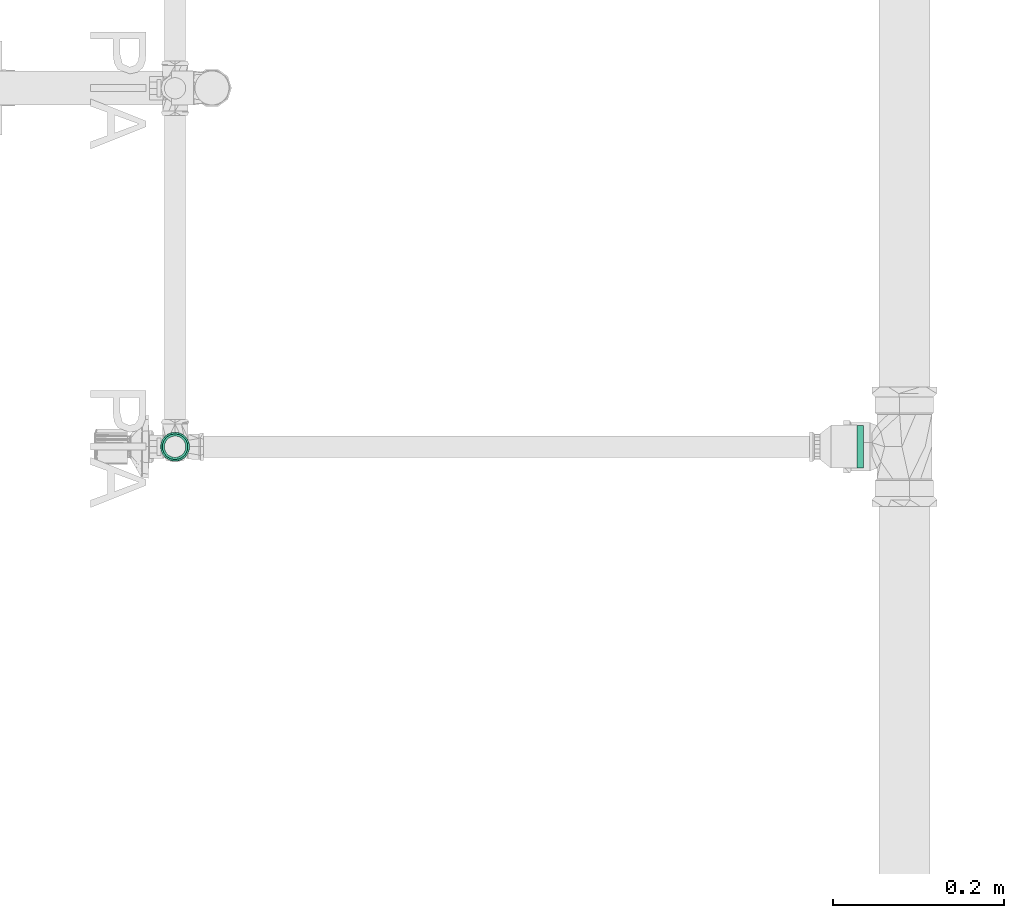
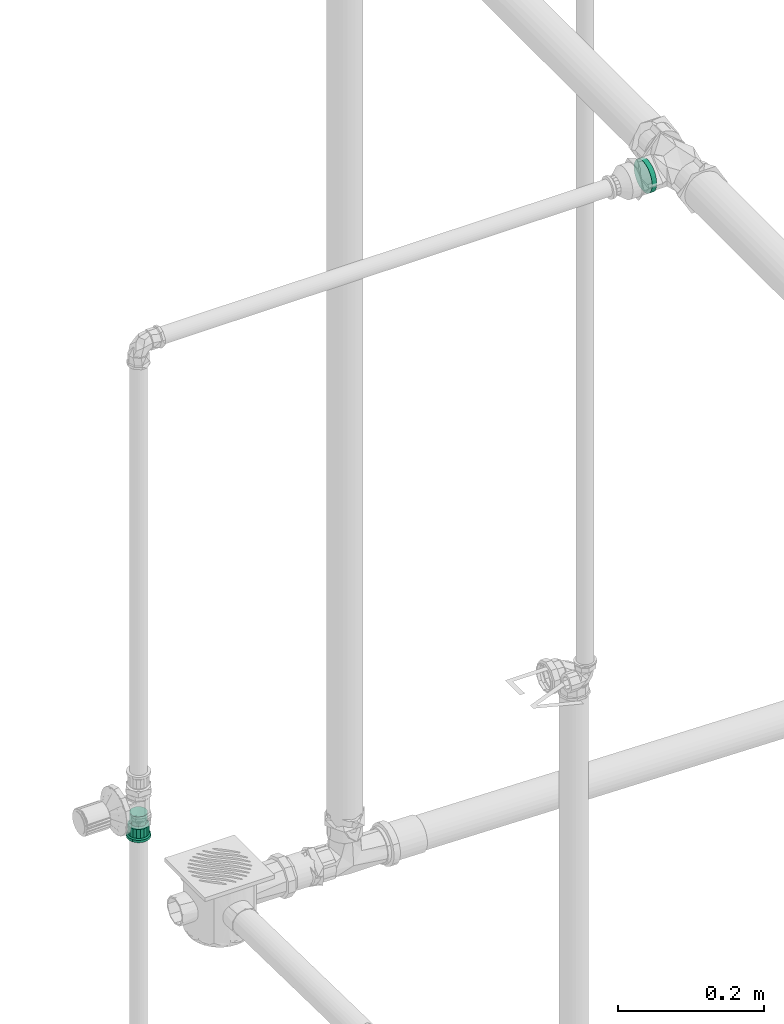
# One storey, part 400 of 589: 1 flow fitting, 1 flow segment.
"""IFC2X3 building model written with IfcOpenShell, lengths in millimetres."""

import ifcopenshell
import ifcopenshell.guid

model = None  # the IFC model being written
_history = None  # IfcOwnerHistory: only IFC2X3 demands one
_inside = {}  # id of a spatial element -> (the spatial element, [elements in it])
_under = {}  # id of a project, library or spatial element -> (it, [spatial elements below it])
_declared = {}  # id of a project -> (the project, [libraries it declares])
_typed = {}  # id of a type object -> (the type object, [elements of that type])
_made_of = {}  # id of a material, layer set ... -> (it, [elements and type objects made of it])


def new_model(schema):
    """Start an empty IFC model of exactly this schema.

    Asked for "IFC4X3", IfcOpenShell would pick the latest addendum, in which some entities
    have other attributes; the version numbers below select the first issue.
    IFC2X3 requires an IfcOwnerHistory on every rooted entity: one is made here for all.
    """
    global model, _history
    if schema == "IFC4X3":
        model = ifcopenshell.file(schema_version=(4, 3, 0, 0))
    else:
        model = ifcopenshell.file(schema=schema)
    _inside.clear()
    _under.clear()
    _declared.clear()
    _typed.clear()
    _made_of.clear()
    _history = None
    if model.schema == "IFC2X3":
        org = make("IfcOrganization", Name="unknown")
        user = make(
            "IfcPersonAndOrganization",
            ThePerson=make("IfcPerson", FamilyName="unknown"),
            TheOrganization=org,
        )
        app = make(
            "IfcApplication",
            ApplicationDeveloper=org,
            Version="unknown",
            ApplicationFullName="unknown",
            ApplicationIdentifier="unknown",
        )
        _history = make(
            "IfcOwnerHistory",
            OwningUser=user,
            OwningApplication=app,
            ChangeAction="ADDED",
            CreationDate=0,
        )
    return model


def make(cls, **values):
    """One entity of the class cls with the attributes given. An attribute that is None is left unset."""
    return model.create_entity(
        cls, **{name: value for name, value in values.items() if value is not None}
    )


def entity(cls, *values):
    """Any entity or typed value of the class cls, its attributes in the order of the schema. None: left unset."""
    e = model.create_entity(cls)
    for i, value in enumerate(values):
        if value is not None:
            e[i] = value
    return e


def rooted(cls, **values):
    """An entity with a GlobalId (a new one), such as an element, a storey or a relation."""
    return make(cls, GlobalId=ifcopenshell.guid.new(), OwnerHistory=_history, **values)


def si_unit(unit_type, name, prefix=None):
    """IfcSIUnit, for example si_unit("LENGTHUNIT", "METRE", prefix="MILLI")."""
    return make("IfcSIUnit", UnitType=unit_type, Prefix=prefix, Name=name)


def converted_unit(unit_type, name, factor, base, dimensions=None, offset=None):
    """IfcConversionBasedUnit, such as the inch: factor (a typed value) times the base unit."""
    return make(
        "IfcConversionBasedUnit"
        if offset is None
        else "IfcConversionBasedUnitWithOffset",
        ConversionOffset=offset,
        Dimensions=None
        if dimensions is None
        else entity("IfcDimensionalExponents", *dimensions),
        UnitType=unit_type,
        Name=name,
        ConversionFactor=make(
            "IfcMeasureWithUnit", ValueComponent=factor, UnitComponent=base
        ),
    )


def derived_unit(unit_type, elements):
    """IfcDerivedUnit: a product of units, each with its exponent."""
    return make(
        "IfcDerivedUnit",
        Elements=[
            make("IfcDerivedUnitElement", Unit=unit, Exponent=power)
            for unit, power in elements
        ],
        UnitType=unit_type,
    )


def assignment(units):
    """IfcUnitAssignment: the units of a project."""
    return None if units is None else make("IfcUnitAssignment", Units=units)


def point(xyz):
    """IfcCartesianPoint."""
    return None if xyz is None else make("IfcCartesianPoint", Coordinates=xyz)


def direction(xyz):
    """IfcDirection."""
    return None if xyz is None else make("IfcDirection", DirectionRatios=xyz)


def frame(location, z_axis=None, x_axis=None):
    """IfcAxis2Placement3D, a coordinate frame: its origin and axes. An axis left out is left unset."""
    return make(
        "IfcAxis2Placement3D",
        Location=point(location),
        Axis=direction(z_axis),
        RefDirection=direction(x_axis),
    )


def frame_2d(location, x_axis=None):
    """IfcAxis2Placement2D, a coordinate frame in the plane: its origin and x axis."""
    return make(
        "IfcAxis2Placement2D", Location=point(location), RefDirection=direction(x_axis)
    )


def origin():
    """The frame at (0, 0, 0) with its axes left unset."""
    return frame((0.0, 0.0, 0.0))


def place(relative_to, where):
    """IfcLocalPlacement: puts the frame where relative to a parent placement (None: the world)."""
    return make(
        "IfcLocalPlacement", PlacementRelTo=relative_to, RelativePlacement=where
    )


def context(
    kind, dimensions, precision=None, world=None, true_north=None, identifier=None
):
    """IfcGeometricRepresentationContext, for example the 3D "Model" context."""
    return make(
        "IfcGeometricRepresentationContext",
        ContextIdentifier=identifier,
        ContextType=kind,
        CoordinateSpaceDimension=dimensions,
        Precision=precision,
        WorldCoordinateSystem=world,
        TrueNorth=true_north,
    )


def subcontext(parent, identifier, kind, view, scale=None):
    """IfcGeometricRepresentationSubContext, for example "Body" below "Model"."""
    return make(
        "IfcGeometricRepresentationSubContext",
        ContextIdentifier=identifier,
        ContextType=kind,
        ParentContext=parent,
        TargetScale=scale,
        TargetView=view,
    )


def project(units=None, contexts=None):
    """IfcProject with its units and contexts."""
    return rooted(
        "IfcProject",
        Name="project",
        RepresentationContexts=contexts,
        UnitsInContext=assignment(units),
    )


def spatial(cls, under=None, at=None, **own):
    """A site, building, storey or space (cls), placed at a placement, below another one or the project."""
    s = rooted(cls, ObjectPlacement=at, **own)
    if under is not None:
        _under.setdefault(under.id(), (under, []))[1].append(s)
    return s


def profile(cls, at=None, kind="AREA", **sizes):
    """A parametric profile (cls). Its sizes go by their IFC names, for example OverallWidth=200.0."""
    return make(cls, ProfileType=kind, Position=at, **sizes)


def circle(**sizes):
    """IfcCircleProfileDef."""
    return profile("IfcCircleProfileDef", **sizes)


def extrude(swept, where, along, depth):
    """IfcExtrudedAreaSolid: the profile swept, set in the frame where, extruded along a direction by depth."""
    return make(
        "IfcExtrudedAreaSolid",
        SweptArea=swept,
        Position=where,
        ExtrudedDirection=direction(along),
        Depth=depth,
    )


def faces_of(points, faces, orient=None, outer=None):
    """IfcFace entities. A face is a list of loops; a loop is a list of indices into points, from 0.

    orient and outer hold one flag for each loop. By default every Orientation is true, the
    first loop of a face is its IfcFaceOuterBound and the others are IfcFaceBound.
    """
    made = []
    for i, loops in enumerate(faces):
        bounds = []
        for j, loop in enumerate(loops):
            is_outer = j == 0 if outer is None else outer[i][j]
            bounds.append(
                make(
                    "IfcFaceOuterBound" if is_outer else "IfcFaceBound",
                    Bound=make("IfcPolyLoop", Polygon=[points[k] for k in loop]),
                    Orientation=True if orient is None else orient[i][j],
                )
            )
        made.append(make("IfcFace", Bounds=bounds))
    return made


def faceted_brep(points, faces, orient=None, outer=None, voids=None):
    """IfcFacetedBrep: a solid bounded by flat faces; with voids (closed shells), ...WithVoids."""
    shared = [point(p) for p in points]
    hull = make("IfcClosedShell", CfsFaces=faces_of(shared, faces, orient, outer))
    if voids is None:
        return make("IfcFacetedBrep", Outer=hull)
    return make(
        "IfcFacetedBrepWithVoids",
        Outer=hull,
        Voids=[
            make(cls, CfsFaces=faces_of(shared, fs, o, b)) for cls, fs, o, b in voids
        ],
    )


def shape(context_of_items, identifier, shape_type, items):
    """IfcShapeRepresentation: the items that make up one representation, for example the "Body"."""
    return make(
        "IfcShapeRepresentation",
        ContextOfItems=context_of_items,
        RepresentationIdentifier=identifier,
        RepresentationType=shape_type,
        Items=items,
    )


def source(mapping_origin, context_of_items, identifier, shape_type, items):
    """IfcRepresentationMap: a shape defined once, which mapped items show again and again."""
    return make(
        "IfcRepresentationMap",
        MappingOrigin=mapping_origin,
        MappedRepresentation=shape(context_of_items, identifier, shape_type, items),
    )


def transform(
    local_origin,
    x_axis=None,
    y_axis=None,
    z_axis=None,
    scale=None,
    scale2=None,
    scale3=None,
    uniform=True,
):
    """IfcCartesianTransformationOperator3D, or its non-uniform kind. x_axis, y_axis, z_axis: its Axis1, 2, 3."""
    if uniform:
        return make(
            "IfcCartesianTransformationOperator3D",
            Axis1=direction(x_axis),
            Axis2=direction(y_axis),
            LocalOrigin=point(local_origin),
            Scale=scale,
            Axis3=direction(z_axis),
        )
    return make(
        "IfcCartesianTransformationOperator3DnonUniform",
        Axis1=direction(x_axis),
        Axis2=direction(y_axis),
        LocalOrigin=point(local_origin),
        Scale=scale,
        Axis3=direction(z_axis),
        Scale2=scale2,
        Scale3=scale3,
    )


def mapped(mapping_source, mapping_target):
    """IfcMappedItem: shows the shape of a source again, moved by a transform."""
    return make(
        "IfcMappedItem", MappingSource=mapping_source, MappingTarget=mapping_target
    )


def material(Name=None, Category=None):
    """IfcMaterial."""
    return make("IfcMaterial", Name=Name, Category=Category)


def made_of(thing, what):
    """Note that an element or type object is made of a material, layer set ...; save() writes the relation."""
    if what is not None:
        _made_of.setdefault(what.id(), (what, []))[1].append(thing)
    return thing


def type_object(cls, material=None, **own):
    """A type object (cls), such as IfcWallType, which elements share."""
    return made_of(rooted(cls, **own), material)


def type_shapes(of_type, sources):
    """Give a type object the sources (RepresentationMaps) that its elements show as mapped items."""
    of_type.RepresentationMaps = sources


def element(
    cls,
    number,
    at=None,
    inside=None,
    cuts=None,
    type_object=None,
    material=None,
    context=None,
    identifier="Body",
    shape_type=None,
    held_by="IfcProductDefinitionShape",
    body=None,
    shapes=None,
    **own,
):
    """One element of the class cls, such as IfcWall. Its Tag is "e" and its number.

    at: its placement. inside: the storey or other place that contains it. cuts: it is an
    opening in that element (IfcRelVoidsElement). A single representation is given by context,
    identifier, shape_type and body (its items); several are given by shapes. held_by: the class
    of the entity that holds the representations. save() writes the other relations.
    """
    e = rooted(cls, Tag="e%d" % number, ObjectPlacement=at, **own)
    if body is not None:
        shapes = [shape(context, identifier, shape_type, body)]
    if shapes is not None:
        e.Representation = make(held_by, Representations=shapes)
    if inside is not None:
        _inside.setdefault(inside.id(), (inside, []))[1].append(e)
    if cuts is not None:
        rooted(
            "IfcRelVoidsElement", RelatingBuildingElement=cuts, RelatedOpeningElement=e
        )
    if type_object is not None:
        _typed.setdefault(type_object.id(), (type_object, []))[1].append(e)
    return made_of(e, material)


def aggregate(whole, parts):
    """IfcRelAggregates: a whole, such as a stair, and the parts it consists of."""
    return rooted("IfcRelAggregates", RelatingObject=whole, RelatedObjects=parts)


def save(model, path):
    """Write the relations noted so far, then the file.

    IfcRelAggregates (storeys below a building ...), IfcRelContainedInSpatialStructure (elements
    in a storey), IfcRelDefinesByType, IfcRelAssociatesMaterial and IfcRelDeclares: one each for
    every whole, place, type object, material and project.
    """
    for whole, parts in _under.values():
        aggregate(whole, parts)
    for where, things in _inside.values():
        rooted(
            "IfcRelContainedInSpatialStructure",
            RelatedElements=things,
            RelatingStructure=where,
        )
    for kind, things in _typed.values():
        rooted("IfcRelDefinesByType", RelatedObjects=things, RelatingType=kind)
    for what, things in _made_of.values():
        rooted("IfcRelAssociatesMaterial", RelatedObjects=things, RelatingMaterial=what)
    for by, libraries in _declared.values():
        rooted("IfcRelDeclares", RelatingContext=by, RelatedDefinitions=libraries)
    model.write(path)


model = new_model("IFC2X3")

# Units and contexts
model_context = context("Model", 3, precision=0.01, world=origin(), true_north=direction((6.123031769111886e-17, 1.0)))
body_context = subcontext(model_context, "Body", "Model", "MODEL_VIEW")
ifc_project = project(units=[si_unit("LENGTHUNIT", "METRE", prefix="MILLI"), si_unit("AREAUNIT", "SQUARE_METRE"), si_unit("VOLUMEUNIT", "CUBIC_METRE"), converted_unit("PLANEANGLEUNIT", "DEGREE", entity("IfcRatioMeasure", 0.017453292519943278), si_unit("PLANEANGLEUNIT", "RADIAN"), dimensions=[0, 0, 0, 0, 0, 0, 0]), si_unit("MASSUNIT", "GRAM", prefix="KILO"), derived_unit("MASSDENSITYUNIT", [(si_unit("MASSUNIT", "GRAM", prefix="KILO"), 1), (si_unit("LENGTHUNIT", "METRE"), -3)]), derived_unit("IONCONCENTRATIONUNIT", [(si_unit("MASSUNIT", "GRAM", prefix="KILO"), 1), (si_unit("LENGTHUNIT", "METRE"), -3)]), derived_unit("MOMENTOFINERTIAUNIT", [(si_unit("LENGTHUNIT", "METRE"), 4)]), si_unit("TIMEUNIT", "SECOND"), si_unit("FREQUENCYUNIT", "HERTZ"), si_unit("THERMODYNAMICTEMPERATUREUNIT", "DEGREE_CELSIUS"), derived_unit("THERMALTRANSMITTANCEUNIT", [(si_unit("MASSUNIT", "GRAM", prefix="KILO"), 1), (si_unit("THERMODYNAMICTEMPERATUREUNIT", "KELVIN"), -1), (si_unit("TIMEUNIT", "SECOND"), -3)]), derived_unit("THERMALCONDUCTANCEUNIT", [(si_unit("MASSUNIT", "GRAM", prefix="KILO"), 1), (si_unit("THERMODYNAMICTEMPERATUREUNIT", "KELVIN"), -1), (si_unit("TIMEUNIT", "SECOND"), -3), (si_unit("LENGTHUNIT", "METRE"), 1)]), derived_unit("VOLUMETRICFLOWRATEUNIT", [(si_unit("LENGTHUNIT", "METRE"), 3), (si_unit("TIMEUNIT", "SECOND"), -1)]), derived_unit("MASSFLOWRATEUNIT", [(si_unit("MASSUNIT", "GRAM", prefix="KILO"), 1), (si_unit("TIMEUNIT", "SECOND"), -1)]), derived_unit("ROTATIONALFREQUENCYUNIT", [(si_unit("TIMEUNIT", "SECOND"), -1)]), si_unit("ELECTRICCURRENTUNIT", "AMPERE"), si_unit("ELECTRICVOLTAGEUNIT", "VOLT"), si_unit("POWERUNIT", "WATT"), si_unit("FORCEUNIT", "NEWTON", prefix="KILO"), si_unit("ILLUMINANCEUNIT", "LUX"), si_unit("LUMINOUSFLUXUNIT", "LUMEN"), si_unit("LUMINOUSINTENSITYUNIT", "CANDELA"), derived_unit("USERDEFINED", [(si_unit("MASSUNIT", "GRAM", prefix="KILO"), -1), (si_unit("LENGTHUNIT", "METRE"), -2), (si_unit("TIMEUNIT", "SECOND"), 3), (si_unit("LUMINOUSFLUXUNIT", "LUMEN"), 1)]), derived_unit("USERDEFINED", [(si_unit("MASSUNIT", "GRAM", prefix="KILO"), 1), (si_unit("TIMEUNIT", "SECOND"), -3), (si_unit("LENGTHUNIT", "METRE"), 3), (si_unit("ELECTRICCURRENTUNIT", "AMPERE"), -2)]), derived_unit("SOUNDPOWERUNIT", [(si_unit("MASSUNIT", "GRAM", prefix="KILO"), 1), (si_unit("TIMEUNIT", "SECOND"), -3), (si_unit("LENGTHUNIT", "METRE"), 2)]), derived_unit("SOUNDPRESSUREUNIT", [(si_unit("MASSUNIT", "GRAM", prefix="KILO"), 1), (si_unit("LENGTHUNIT", "METRE"), -1), (si_unit("TIMEUNIT", "SECOND"), -2)]), derived_unit("LINEARVELOCITYUNIT", [(si_unit("LENGTHUNIT", "METRE"), 1), (si_unit("TIMEUNIT", "SECOND"), -1)]), si_unit("PRESSUREUNIT", "PASCAL"), derived_unit("USERDEFINED", [(si_unit("MASSUNIT", "GRAM", prefix="KILO"), 1), (si_unit("LENGTHUNIT", "METRE"), -2), (si_unit("TIMEUNIT", "SECOND"), -2)]), derived_unit("LINEARFORCEUNIT", [(si_unit("MASSUNIT", "GRAM", prefix="KILO"), 1), (si_unit("TIMEUNIT", "SECOND"), -2)]), derived_unit("PLANARFORCEUNIT", [(si_unit("MASSUNIT", "GRAM", prefix="KILO"), 1), (si_unit("LENGTHUNIT", "METRE"), -1), (si_unit("TIMEUNIT", "SECOND"), -2)]), derived_unit("SPECIFICHEATCAPACITYUNIT", [(si_unit("THERMODYNAMICTEMPERATUREUNIT", "KELVIN"), -1), (si_unit("LENGTHUNIT", "METRE"), 2), (si_unit("TIMEUNIT", "SECOND"), -2)]), derived_unit("HEATINGVALUEUNIT", [(si_unit("LENGTHUNIT", "METRE"), 2), (si_unit("TIMEUNIT", "SECOND"), -2)]), derived_unit("VAPORPERMEABILITYUNIT", [(si_unit("LENGTHUNIT", "METRE"), -1), (si_unit("TIMEUNIT", "SECOND"), 1)]), derived_unit("DYNAMICVISCOSITYUNIT", [(si_unit("MASSUNIT", "GRAM", prefix="KILO"), 1), (si_unit("TIMEUNIT", "SECOND"), -1), (si_unit("LENGTHUNIT", "METRE"), -1)]), derived_unit("THERMALEXPANSIONCOEFFICIENTUNIT", [(si_unit("THERMODYNAMICTEMPERATUREUNIT", "KELVIN"), -1)]), derived_unit("MODULUSOFELASTICITYUNIT", [(si_unit("MASSUNIT", "GRAM", prefix="KILO"), 1), (si_unit("LENGTHUNIT", "METRE"), -1), (si_unit("TIMEUNIT", "SECOND"), -2)]), derived_unit("ISOTHERMALMOISTURECAPACITYUNIT", [(si_unit("LENGTHUNIT", "METRE"), 3), (si_unit("MASSUNIT", "GRAM", prefix="KILO"), -1)]), derived_unit("MOISTUREDIFFUSIVITYUNIT", [(si_unit("TIMEUNIT", "SECOND"), -1), (si_unit("LENGTHUNIT", "METRE"), 2)])], contexts=[model_context])

# Site, building, storey
site_placement = place(None, origin())
site = spatial("IfcSite", under=ifc_project, at=site_placement, Name="Default", CompositionType="ELEMENT")
building_placement = place(site_placement, origin())
building = spatial("IfcBuilding", under=site, at=building_placement, CompositionType="ELEMENT")
storey_placement = place(building_placement, frame((0.0, 0.0, 100.0)))
storey = spatial("IfcBuildingStorey", under=building, at=storey_placement, Name="TÉRREO", CompositionType="ELEMENT", Elevation=100.0)

# Flow segment
pipe_segment_type = type_object("IfcPipeSegmentType", Name="Tipos de tubos:PVC Marrom Soldável", PredefinedType="NOTDEFINED")
flow_segment_placement = place(storey_placement, origin())
element("IfcFlowSegment", 1, at=flow_segment_placement, inside=storey, type_object=pipe_segment_type, Name="Tipos de tubos:PVC Marrom Soldável", ObjectType="Tipos de tubos:PVC Marrom Soldável", context=body_context, shape_type="SweptSolid", body=[
    extrude(circle(Radius=25.0, at=frame_2d((-1.353583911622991e-13, 5.414335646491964e-13), x_axis=(1.0, 0.0))), frame((3990.21586824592, 277.31812904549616, 2970.0), z_axis=(1.0, 0.0, 0.0), x_axis=(0.0, 1.0, 0.0)), (0.0, 0.0, 1.0), 7.500000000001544),
])

# Flow fitting
ifc_material = material(Name="PVC Marrom")
pipe_fitting_type = type_object("IfcPipeFittingType", Name="PVC Marrom Soldável_Adaptador Curto com Bolsa e Rosca Aninhado_Rodrigo MEP:Adaptador", PredefinedType="NOTDEFINED", material=ifc_material)
shared_shape = source(origin(), body_context, "Body", "Brep", [
    faceted_brep([(0.0, -8.500000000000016, -14.72243186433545), (0.0, -12.020815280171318, -12.0208152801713), (0.0, -6.2499999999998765, -10.825317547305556), (0.0, -3.2352380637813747, -12.07407282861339), (0.0, -4.399923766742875, -16.420739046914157), (0.0, -8.838834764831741, -8.83883476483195), (0.0, -14.722431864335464, -8.499999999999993), (0.0, -10.825317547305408, -6.250000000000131), (0.0, -12.074072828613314, -3.2352380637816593), (0.0, -16.42073904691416, -4.399923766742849), (0.0, -12.5, 0.0), (0.0, -17.0, 0.0), (0.0, -12.074072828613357, 3.2352380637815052), (0.0, -16.420739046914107, 4.399923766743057), (0.0, -10.825317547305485, 6.2499999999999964), (0.0, -14.722431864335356, 8.500000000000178), (0.0, -8.83883476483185, 8.838834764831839), (0.0, -12.020815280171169, 12.020815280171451), (0.0, -6.250000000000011, 10.82531754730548), (0.0, -8.499999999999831, 14.722431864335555), (0.0, -3.2352380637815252, 12.07407282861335), (0.0, -4.39992376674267, 16.42073904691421), (0.0, 0.0, 12.5), (0.0, 0.0, 17.0), (0.0, 3.2352380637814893, 12.07407282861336), (0.0, 4.399923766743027, 16.420739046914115), (0.0, 6.24999999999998, 10.825317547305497), (0.0, 8.500000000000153, 14.722431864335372), (0.0, 8.838834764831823, 8.838834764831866), (0.0, 12.020815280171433, 12.020815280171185), (0.0, 10.82531754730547, 6.250000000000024), (0.0, 14.722431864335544, 8.499999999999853), (0.0, 16.42073904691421, 4.399923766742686), (0.0, 12.074072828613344, 3.2352380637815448), (0.0, 17.0, 0.0), (0.0, 12.5, 0.0), (0.0, 16.42073904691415, -4.399923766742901), (0.0, 12.074072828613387, -3.235238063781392), (0.0, 14.722431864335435, -8.500000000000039), (0.0, 10.82531754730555, -6.249999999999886), (0.0, 12.02081528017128, -12.020815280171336), (0.0, 8.838834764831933, -8.838834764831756), (0.0, 8.499999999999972, -14.722431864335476), (0.0, 6.250000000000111, -10.825317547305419), (0.0, 4.399923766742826, -16.42073904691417), (0.0, 3.235238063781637, -12.074072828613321), (0.0, 0.0, -17.0), (0.0, 0.0, -12.5), (4.0, 15.974612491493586, 5.8147876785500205), (4.0, 16.487306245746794, 2.9073938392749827), (4.0, 10.760457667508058, 12.825628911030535), (4.0, 13.022146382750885, 10.928115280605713), (4.0, 14.498379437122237, 8.371451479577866), (4.0, 5.724460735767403, 15.732601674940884), (4.0, 2.9501525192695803, 16.742060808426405), (4.0, 16.599682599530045, 2.2701277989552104), (4.0, 17.0, 0.0), (4.0, 8.498768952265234, 14.723142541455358), (4.0, -8.502461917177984, 14.721010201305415), (4.0, -5.728407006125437, 15.731165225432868), (4.0, -2.954352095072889, 16.74132024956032), (4.0, -13.02488724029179, 10.924848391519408), (4.0, -10.763674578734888, 12.82292929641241), (4.0, -17.0, 0.0), (4.0, -15.976070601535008, 5.8107803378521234), (4.0, -14.5004789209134, 8.367814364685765), (4.0, -0.002099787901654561, 16.741690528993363), (4.0, -15.97607060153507, -5.810780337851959), (4.0, -10.763674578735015, -12.822929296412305), (4.0, -13.024887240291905, -10.92484839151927), (4.0, -14.500478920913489, -8.367814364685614), (4.0, -5.728407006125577, -15.731165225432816), (4.0, -2.9543520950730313, -16.741320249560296), (4.0, -8.502461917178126, -14.721010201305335), (4.0, 16.487306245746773, -2.907393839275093), (4.0, 8.498768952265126, -14.72314254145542), (4.0, 5.724460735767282, -15.732601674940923), (4.0, 2.950152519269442, -16.74206080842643), (4.0, 13.022146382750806, -10.928115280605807), (4.0, 10.760457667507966, -12.825628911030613), (4.0, 15.974612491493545, -5.814787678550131), (4.0, 14.498379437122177, -8.371451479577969), (4.0, -0.002099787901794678, -16.741690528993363), (4.0, 16.599682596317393, -2.270127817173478), (20.85, 14.535973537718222, 2.9149513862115), (20.85, 14.596115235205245, 2.5738986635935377), (20.850000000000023, 15.05, 0.0), (5.900000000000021, 15.05, 0.0), (5.900000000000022, 14.59611523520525, 2.5738986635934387), (5.900000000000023, 14.142230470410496, 5.147797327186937), (20.84999999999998, 14.142230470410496, 5.147797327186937), (20.849999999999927, 9.52616987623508, 11.354453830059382), (20.84999999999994, 11.528429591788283, 9.674596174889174), (5.900000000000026, 11.528429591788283, 9.674596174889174), (5.900000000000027, 9.526169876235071, 11.354453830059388), (5.900000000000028, 7.523910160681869, 13.034311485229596), (20.84999999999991, 7.523910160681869, 13.034311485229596), (20.849999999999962, 12.835330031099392, 7.411196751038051), (5.900000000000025, 12.83533003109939, 7.411196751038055), (20.849999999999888, 2.6117526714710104, 14.821647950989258), (20.849999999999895, 5.067831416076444, 13.927979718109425), (5.900000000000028, 5.067831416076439, 13.927979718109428), (5.900000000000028, 2.6117526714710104, 14.821647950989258), (20.849999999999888, -2.61547053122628, 14.820992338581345), (20.849999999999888, -0.0018589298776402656, 14.821320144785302), (5.900000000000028, -0.0018589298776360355, 14.8213201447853), (5.900000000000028, -2.615470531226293, 14.820992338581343), (20.849999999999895, -5.0713250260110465, 13.926708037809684), (5.900000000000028, -5.071325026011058, 13.92670803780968), (5.900000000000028, -7.527179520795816, 13.032423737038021), (20.849999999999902, -7.527179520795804, 13.032423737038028), (5.900000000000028, -9.52901778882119, 11.35206387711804), (5.900000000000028, -11.530856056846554, 9.671704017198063), (20.84999999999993, -11.530856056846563, 9.671704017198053), (20.849999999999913, -9.529017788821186, 11.352063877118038), (20.849999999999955, -12.837188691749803, 7.407976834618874), (5.900000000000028, -12.837188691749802, 7.407976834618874), (5.900000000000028, -14.143521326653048, 5.144249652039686), (20.849999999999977, -14.143521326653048, 5.144249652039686), (5.900000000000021, -15.05, 0.0), (20.850000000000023, -15.05, 0.0), (20.85000000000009, -14.143521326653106, -5.144249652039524), (5.900000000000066, -14.143521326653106, -5.144249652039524), (20.850000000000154, -7.527179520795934, -13.032423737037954), (20.85000000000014, -9.529017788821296, -11.352063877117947), (20.85000000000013, -11.530856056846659, -9.67170401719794), (5.900000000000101, -11.530856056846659, -9.67170401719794), (5.900000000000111, -9.529017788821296, -11.352063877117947), (5.900000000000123, -7.527179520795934, -13.032423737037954), (5.90000000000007, 12.835330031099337, -7.411196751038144), (5.900000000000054, 14.142230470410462, -5.147797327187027), (20.850000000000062, 14.142230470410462, -5.147797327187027), (20.850000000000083, 12.835330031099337, -7.411196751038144), (20.850000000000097, 11.528429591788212, -9.67459617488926), (5.900000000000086, 11.528429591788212, -9.67459617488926), (5.90000000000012, 5.067831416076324, -13.927979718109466), (5.900000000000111, 7.523910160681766, -13.034311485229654), (20.850000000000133, 7.523910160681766, -13.034311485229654), (20.85000000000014, 5.067831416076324, -13.927979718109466), (20.850000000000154, 2.6117526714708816, -14.821647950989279), (5.900000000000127, 2.6117526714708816, -14.821647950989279), (20.850000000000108, -12.837188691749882, -7.40797683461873), (5.900000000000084, -12.837188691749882, -7.407976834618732), (20.85000000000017, -2.6154705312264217, -14.82099233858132), (20.850000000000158, -5.071325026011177, -13.926708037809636), (5.900000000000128, -5.071325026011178, -13.926708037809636), (5.900000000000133, -2.6154705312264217, -14.82099233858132), (5.900000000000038, 14.596115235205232, -2.573898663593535), (20.85000000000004, 14.667751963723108, -2.1676596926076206), (20.850000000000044, 14.535973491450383, -2.91495164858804), (5.900000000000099, 9.526169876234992, -11.354453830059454), (20.850000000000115, 9.52616987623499, -11.354453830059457), (20.850000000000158, -0.0018589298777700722, -14.821320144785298), (5.900000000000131, -0.0018589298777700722, -14.821320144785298), (40.29999999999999, 0.0, -12.5), (40.29999999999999, 3.2352380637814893, -12.07407282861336), (40.29999999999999, 6.24999999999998, -10.825317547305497), (40.29999999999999, 8.838834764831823, -8.838834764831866), (40.29999999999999, 10.825317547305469, -6.2500000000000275), (40.29999999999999, 12.074072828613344, -3.2352380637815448), (40.29999999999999, 12.5, 0.0), (40.29999999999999, 12.074072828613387, 3.235238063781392), (40.29999999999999, 10.825317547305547, 6.249999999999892), (40.29999999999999, 8.838834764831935, 8.838834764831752), (40.29999999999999, 6.250000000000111, 10.825317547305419), (40.29999999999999, 3.235238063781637, 12.074072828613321), (40.29999999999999, 0.0, 12.5), (40.29999999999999, -3.2352380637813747, 12.07407282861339), (40.29999999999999, -6.2499999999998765, 10.825317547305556), (40.29999999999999, -8.838834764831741, 8.83883476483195), (40.29999999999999, -10.825317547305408, 6.250000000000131), (40.29999999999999, -12.074072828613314, 3.2352380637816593), (40.29999999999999, -12.5, 0.0), (40.29999999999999, -12.074072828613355, -3.2352380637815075), (40.29999999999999, -10.825317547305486, -6.249999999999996), (40.29999999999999, -8.83883476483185, -8.838834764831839), (40.29999999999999, -6.250000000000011, -10.82531754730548), (40.29999999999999, -3.2352380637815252, -12.07407282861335), (23.749999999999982, 12.5, 0.0), (23.74999999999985, 9.57510763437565, 8.035378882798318), (23.749999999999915, 11.746038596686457, 4.275579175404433), (23.749999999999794, 6.249094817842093, 10.825840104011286), (23.74999999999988, 10.66057311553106, 6.155479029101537), (23.74999999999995, 12.182518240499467, 1.8003818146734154), (23.74999999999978, 4.209162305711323, 11.56808946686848), (23.74999999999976, 2.1692297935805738, 12.310338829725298), (23.74999999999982, 7.912101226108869, 9.430609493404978), (23.749999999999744, -2.1723177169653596, 12.309794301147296), (23.749999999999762, -6.251810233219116, 10.824272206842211), (23.749999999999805, -9.577122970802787, 8.032976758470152), (23.749999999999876, -11.747110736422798, 4.272632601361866), (23.749999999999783, -7.9144666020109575, 9.428624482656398), (23.74999999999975, -4.212063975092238, 11.56703325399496), (23.749999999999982, -12.5, 0.0), (23.749999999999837, -10.662116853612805, 6.15280467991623), (23.74999999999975, -0.0015439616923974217, 12.31006656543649), (23.750000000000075, -9.577122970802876, -8.032976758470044), (23.75000000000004, -11.747110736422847, -4.272632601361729), (23.750000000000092, -6.2518102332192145, -10.824272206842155), (23.750000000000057, -10.662116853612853, -6.152804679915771), (23.7500000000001, -4.212063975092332, -11.56703325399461), (23.7500000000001, -2.1723177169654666, -12.309794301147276), (23.75000000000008, -7.914466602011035, -9.428624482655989), (23.750000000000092, 2.1692297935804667, -12.310338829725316), (23.750000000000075, 6.249094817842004, -10.82584010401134), (23.750000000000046, 9.575107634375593, -8.035378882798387), (23.750000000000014, 11.74603859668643, -4.275579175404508), (23.750000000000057, 7.912101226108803, -9.430609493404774), (23.75000000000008, 4.209162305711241, -11.56808946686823), (23.749999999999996, 12.123019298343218, -2.1377895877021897), (23.750000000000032, 10.660573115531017, -6.155479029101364), (23.750000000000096, -0.0015439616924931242, -12.310066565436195), (5.900000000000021, 12.07407282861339, -3.2352380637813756), (20.850000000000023, 12.07407282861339, -3.2352380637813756), (20.850000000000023, 12.5, 0.0), (5.900000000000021, 12.5, 0.0), (4.0, 12.5, 0.0), (4.0, 12.07407282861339, -3.2352380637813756), (5.900000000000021, 10.825317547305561, -6.249999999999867), (20.850000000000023, 10.825317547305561, -6.249999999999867), (4.0, 10.825317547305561, -6.249999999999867), (20.850000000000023, 6.250000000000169, -10.825317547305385), (20.850000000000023, 8.838834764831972, -8.838834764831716), (5.900000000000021, 8.838834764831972, -8.838834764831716), (4.0, 8.838834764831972, -8.838834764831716), (4.0, 6.250000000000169, -10.825317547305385), (5.900000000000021, 6.250000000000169, -10.825317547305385), (20.850000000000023, 3.235238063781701, -12.074072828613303), (4.0, 3.235238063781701, -12.074072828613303), (5.900000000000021, 3.235238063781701, -12.074072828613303), (20.850000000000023, 0.0, -12.5), (4.0, 0.0, -12.5), (5.900000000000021, 0.0, -12.5), (5.900000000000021, -3.2352380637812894, -12.074072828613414), (20.850000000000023, -3.2352380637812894, -12.074072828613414), (4.0, -3.2352380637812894, -12.074072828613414), (5.900000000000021, -6.24999999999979, -10.825317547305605), (20.850000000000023, -6.24999999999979, -10.825317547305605), (4.0, -6.24999999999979, -10.825317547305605), (20.850000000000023, -10.825317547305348, -6.250000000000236), (20.850000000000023, -8.838834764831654, -8.838834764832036), (5.900000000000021, -8.838834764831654, -8.838834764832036), (4.0, -8.838834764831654, -8.838834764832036), (4.0, -10.825317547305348, -6.250000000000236), (5.900000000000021, -10.825317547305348, -6.250000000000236), (20.850000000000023, -12.07407282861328, -3.2352380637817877), (4.0, -12.07407282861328, -3.2352380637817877), (5.900000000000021, -12.07407282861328, -3.2352380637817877), (20.850000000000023, -12.5, 0.0), (4.0, -12.5, 0.0), (5.900000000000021, -12.5, 0.0), (5.900000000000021, -12.074072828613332, 3.2352380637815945), (20.850000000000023, -12.074072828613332, 3.2352380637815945), (4.0, -12.074072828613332, 3.2352380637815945), (5.900000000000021, -10.82531754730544, 6.250000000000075), (20.850000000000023, -10.82531754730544, 6.250000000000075), (4.0, -10.82531754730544, 6.250000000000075), (20.850000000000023, -6.249999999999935, 10.825317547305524), (20.850000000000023, -8.838834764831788, 8.838834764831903), (5.900000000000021, -8.838834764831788, 8.838834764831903), (4.0, -8.838834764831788, 8.838834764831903), (4.0, -6.249999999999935, 10.825317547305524), (5.900000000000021, -6.249999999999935, 10.825317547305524), (20.850000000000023, -3.2352380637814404, 12.074072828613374), (4.0, -3.2352380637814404, 12.074072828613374), (5.900000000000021, -3.2352380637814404, 12.074072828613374), (20.850000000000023, 0.0, 12.5), (4.0, 0.0, 12.5), (5.900000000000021, 0.0, 12.5), (5.900000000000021, 3.2352380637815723, 12.074072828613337), (20.850000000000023, 3.2352380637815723, 12.074072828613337), (4.0, 3.2352380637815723, 12.074072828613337), (5.900000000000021, 6.250000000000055, 10.825317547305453), (20.850000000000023, 6.250000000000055, 10.825317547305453), (4.0, 6.250000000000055, 10.825317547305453), (20.850000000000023, 10.825317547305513, 6.249999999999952), (20.850000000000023, 8.838834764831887, 8.838834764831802), (5.900000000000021, 8.838834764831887, 8.838834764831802), (4.0, 8.838834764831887, 8.838834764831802), (4.0, 10.825317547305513, 6.249999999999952), (5.900000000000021, 10.825317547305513, 6.249999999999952), (20.850000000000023, 12.07407282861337, 3.2352380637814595), (4.0, 12.07407282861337, 3.2352380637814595), (5.900000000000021, 12.07407282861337, 3.2352380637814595)], [[[0, 1, 2]], [[0, 2, 3]], [[3, 4, 0]], [[2, 1, 5]], [[6, 5, 1]], [[7, 5, 6]], [[8, 7, 6]], [[8, 6, 9]], [[8, 9, 10]], [[10, 9, 11]], [[12, 10, 11]], [[12, 11, 13]], [[14, 12, 13]], [[14, 13, 15]], [[16, 14, 15]], [[15, 17, 16]], [[17, 18, 16]], [[18, 17, 19]], [[18, 19, 20]], [[21, 20, 19]], [[20, 21, 22]], [[22, 21, 23]], [[23, 24, 22]], [[24, 23, 25]], [[24, 25, 26]], [[27, 26, 25]], [[27, 28, 26]], [[27, 29, 28]], [[30, 28, 29]], [[31, 30, 29]], [[32, 30, 31]], [[33, 30, 32]], [[33, 32, 34]], [[34, 35, 33]], [[36, 35, 34]], [[36, 37, 35]], [[37, 36, 38]], [[39, 37, 38]], [[39, 38, 40]], [[39, 40, 41]], [[40, 42, 41]], [[41, 42, 43]], [[43, 42, 44]], [[44, 45, 43]], [[46, 45, 44]], [[4, 47, 46]], [[45, 46, 47]], [[4, 3, 47]], [[32, 48, 49]], [[50, 51, 29]], [[52, 48, 31, 51]], [[53, 25, 54]], [[48, 32, 31]], [[34, 49, 55, 56]], [[27, 57, 50]], [[29, 27, 50]], [[29, 51, 31]], [[19, 58, 59]], [[21, 19, 59]], [[53, 57, 27]], [[25, 53, 27]], [[54, 25, 23]], [[32, 49, 34]], [[59, 60, 21]], [[61, 62, 17]], [[63, 64, 13]], [[65, 61, 15, 64]], [[11, 63, 13]], [[17, 62, 19]], [[66, 54, 23, 60]], [[21, 60, 23]], [[61, 17, 15]], [[19, 62, 58]], [[13, 64, 15]], [[67, 63, 9]], [[68, 69, 1]], [[70, 67, 6, 69]], [[71, 4, 72]], [[67, 9, 6]], [[63, 11, 9]], [[4, 71, 0]], [[0, 73, 68]], [[1, 69, 6]], [[36, 34, 74]], [[42, 75, 76]], [[71, 73, 0]], [[44, 42, 76]], [[72, 4, 46]], [[1, 0, 68]], [[76, 77, 44]], [[78, 79, 40]], [[74, 80, 36]], [[81, 78, 38, 80]], [[36, 80, 38]], [[40, 79, 42]], [[82, 72, 46, 77]], [[44, 77, 46]], [[78, 40, 38]], [[42, 79, 75]], [[34, 56, 83, 74]], [[84, 85, 86, 87, 88, 89, 90]], [[91, 92, 93, 94, 95, 96]], [[92, 97, 90, 89, 98, 93]], [[99, 100, 96, 95, 101, 102]], [[103, 104, 99, 102, 105, 106]], [[107, 103, 106, 108, 109, 110]], [[111, 112, 113, 114, 110, 109]], [[115, 113, 112, 116, 117, 118]], [[117, 119, 120, 118]], [[121, 120, 119, 122]], [[123, 124, 125, 126, 127, 128]], [[129, 130, 131, 132, 133, 134]], [[135, 136, 137, 138, 139, 140]], [[125, 141, 121, 122, 142, 126]], [[143, 144, 123, 128, 145, 146]], [[131, 130, 147, 87, 86, 148, 149]], [[150, 134, 133, 151, 137, 136]], [[139, 152, 143, 146, 153, 140]], [[154, 155, 156, 157, 158, 159, 160, 161, 162, 163, 164, 165, 166, 167, 168, 169, 170, 171, 172, 173, 174, 175, 176, 177]], [[161, 160, 178]], [[163, 162, 179]], [[180, 162, 161]], [[181, 164, 163]], [[162, 180, 182, 179]], [[161, 178, 183, 180]], [[165, 181, 184, 185]], [[163, 179, 186, 181]], [[166, 165, 185]], [[165, 164, 181]], [[166, 187, 167]], [[167, 188, 168]], [[170, 169, 189]], [[188, 169, 168]], [[171, 170, 190]], [[169, 188, 191, 189]], [[167, 187, 192, 188]], [[190, 193, 171]], [[170, 189, 194, 190]], [[193, 172, 171]], [[166, 185, 195, 187]], [[173, 172, 193]], [[175, 174, 196]], [[197, 174, 173]], [[198, 176, 175]], [[174, 197, 199, 196]], [[173, 193, 197]], [[177, 198, 200, 201]], [[175, 196, 202, 198]], [[154, 177, 201]], [[177, 176, 198]], [[154, 203, 155]], [[155, 204, 156]], [[158, 157, 205]], [[204, 157, 156]], [[159, 158, 206]], [[157, 204, 207, 205]], [[155, 203, 208, 204]], [[159, 206, 209, 178]], [[158, 205, 210, 206]], [[178, 160, 159]], [[154, 201, 211, 203]], [[212, 213, 214, 215, 216, 35, 37, 217]], [[218, 219, 213, 212, 217, 37, 39, 220]], [[221, 222, 223, 224, 41, 43, 225, 226]], [[218, 220, 39, 41, 224, 223, 222, 219]], [[227, 221, 226, 225, 43, 45, 228, 229]], [[230, 227, 229, 228, 45, 47, 231, 232]], [[233, 234, 230, 232, 231, 47, 3, 235]], [[236, 237, 234, 233, 235, 3, 2, 238]], [[239, 240, 241, 242, 5, 7, 243, 244]], [[236, 238, 2, 5, 242, 241, 240, 237]], [[245, 239, 244, 243, 7, 8, 246, 247]], [[248, 245, 247, 246, 8, 10, 249, 250]], [[251, 252, 248, 250, 249, 10, 12, 253]], [[254, 255, 252, 251, 253, 12, 14, 256]], [[257, 258, 259, 260, 16, 18, 261, 262]], [[254, 256, 14, 16, 260, 259, 258, 255]], [[263, 257, 262, 261, 18, 20, 264, 265]], [[266, 263, 265, 264, 20, 22, 267, 268]], [[269, 270, 266, 268, 267, 22, 24, 271]], [[272, 273, 270, 269, 271, 24, 26, 274]], [[275, 276, 277, 278, 28, 30, 279, 280]], [[272, 274, 26, 28, 278, 277, 276, 273]], [[281, 275, 280, 279, 30, 33, 282, 283]], [[214, 281, 283, 282, 33, 35, 216, 215]], [[63, 67, 122, 119]], [[145, 128, 73, 71, 72, 146]], [[68, 73, 128, 127, 126, 69]], [[126, 142, 122, 67, 70, 69]], [[76, 75, 136, 135, 140, 77]], [[81, 80, 130, 129, 134, 78]], [[147, 130, 80, 74, 83, 56, 87]], [[140, 153, 146, 72, 82, 77]], [[134, 150, 136, 75, 79, 78]], [[89, 88, 87, 56, 55, 49, 48]], [[98, 89, 48, 52, 51, 93]], [[94, 93, 51, 50, 57, 95]], [[57, 53, 54, 102, 101, 95]], [[66, 60, 106, 105, 102, 54]], [[58, 109, 108, 106, 60, 59]], [[63, 119, 117, 64]], [[61, 65, 64, 117, 116, 112]], [[58, 62, 61, 112, 111, 109]], [[227, 230, 234, 237, 240, 239, 245, 248, 252, 255, 258, 257, 263, 266, 270, 273, 276, 275, 281, 214, 213, 219, 222, 221]], [[180, 183, 178, 86, 85, 84, 90]], [[100, 99, 185, 184, 181, 96]], [[181, 186, 179, 92, 91, 96]], [[179, 182, 180, 90, 97, 92]], [[104, 103, 187, 195, 185, 99]], [[115, 118, 190, 194, 189, 113]], [[107, 110, 188, 192, 187, 103]], [[118, 120, 193, 190]], [[189, 191, 188, 110, 114, 113]], [[120, 121, 197, 193]], [[200, 198, 123, 144, 143, 201]], [[124, 123, 198, 202, 196, 125]], [[196, 199, 197, 121, 141, 125]], [[138, 137, 204, 208, 203, 139]], [[132, 131, 206, 210, 205, 133]], [[209, 206, 131, 149, 148, 86, 178]], [[203, 211, 201, 143, 152, 139]], [[205, 207, 204, 137, 151, 133]]]),
])
type_shapes(pipe_fitting_type, [shared_shape])
flow_fitting_placement = place(storey_placement, frame((3191.179797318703, 277.3181290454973, 2145.25), z_axis=(-1.0, 0.0, 0.0), x_axis=(0.0, 0.0, 1.0)))
element("IfcFlowFitting", 2, at=flow_fitting_placement, inside=storey, type_object=pipe_fitting_type, material=ifc_material, Name="PVC Marrom Soldável_Adaptador Curto com Bolsa e Rosca Aninhado_Rodrigo MEP:Adaptador", ObjectType="PVC Marrom Soldável_Adaptador Curto com Bolsa e Rosca Aninhado_Rodrigo MEP:Adaptador", context=body_context, shape_type="MappedRepresentation", body=[
    mapped(shared_shape, transform((0.0, 0.0, 0.0), scale=1.0)),
])

save(model, "model.ifc")
